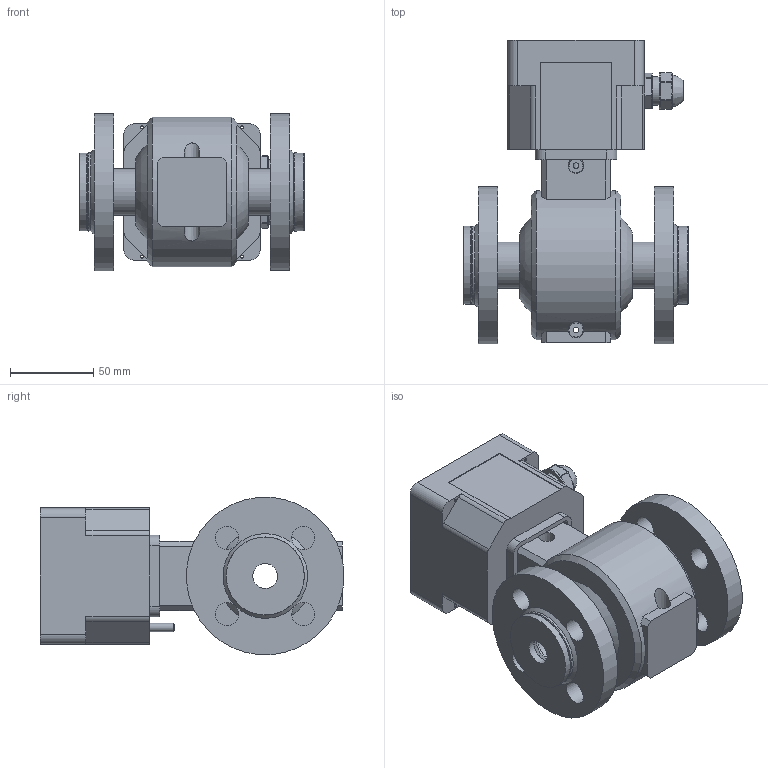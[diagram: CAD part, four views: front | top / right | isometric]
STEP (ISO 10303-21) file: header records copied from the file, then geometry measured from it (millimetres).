
FILE_DESCRIPTION(/* description */ (''),/* implementation_level */ '2;1');
FILE_NAME(/* name */ 'D:\ТЭК\01 Михайлычев\ПРЭМ\Модели для сайта\Квадратное исполение блока\100F\Workspaces\Рабочее пространство\15F\ПРЭМ-15F.stp',/* time_stamp */ '2022-06-21T09:55:04+03:00',/* author */ ('d.mihailichev'),/* organization */ (''),/* preprocessor_version */ 'ST-DEVELOPER v18.1',/* originating_system */ 'Autodesk Inventor 2020',/* authorisation */ '');
FILE_SCHEMA (('AUTOMOTIVE_DESIGN { 1 0 10303 214 3 1 1 }'));
Products named in the file (1): ПРЭМ-15F
Bounding box: 135 x 182.82 x 94.64 mm (x, y, z)
Volume: 498419.9 mm3; surface area: 203945.1 mm2
Topology: 5 solids, 21 shells, 2486 faces, 6590 edges, 4234 vertices
Faces by surface type: plane 1535, bspline 449, cylinder 379, sphere 62, cone 41, torus 20
Full cylindrical faces by diameter (mm): 0.431 x1, 0.546 x1, 1.159 x2, 1.5 x2, 1.7 x4, 1.8 x4, 2 x4, 2.5 x4, 3 x1, 3.242 x8, 3.5 x2, 4 x4, 4.5 x4, 4.7 x4, 5 x1, 5.472 x1, 5.5 x7, 7 x4, 7.5 x4, 8.5 x4, 10 x1, 11 x8, 12 x2, 13 x2, 14 x8, 15 x3, 17 x6, 18 x2, 19 x2, 19.094 x2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
Entity records: 85208 total; most frequent: CARTESIAN_POINT 23822, ORIENTED_EDGE 12992, DIRECTION 10669, EDGE_CURVE 6500, LINE 4431, VECTOR 4431, VERTEX_POINT 4234, AXIS2_PLACEMENT_3D 3119
